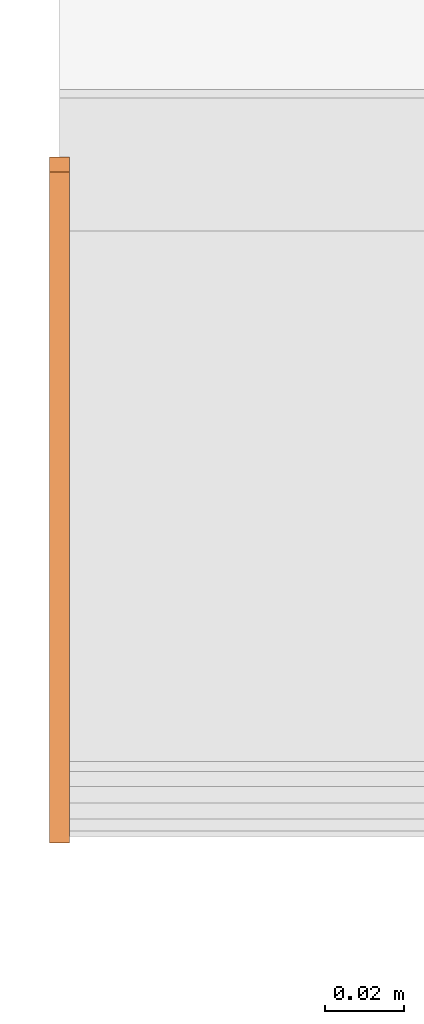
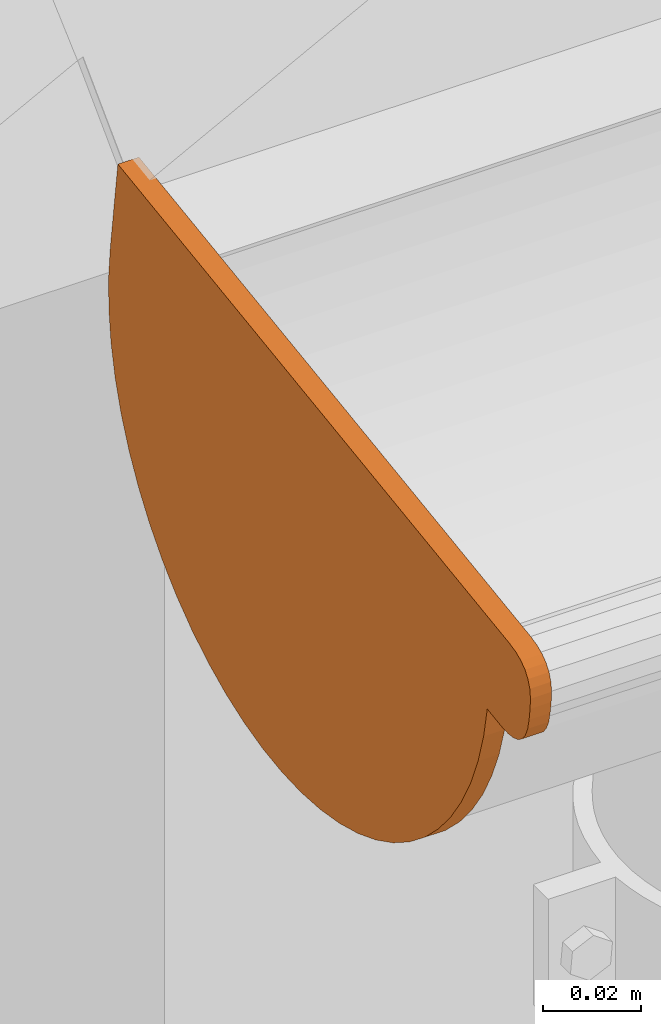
# One storey, part 22 of 43: 1 proxy.
"""IFC2X3 building model written with IfcOpenShell, lengths in millimetres."""

from ifc_helpers import new_model, si_unit, frame, origin_with_axes, place, context, project, spatial, faceted_brep, element, save


model = new_model("IFC2X3")

# Units and contexts
model_context = context("Model", 3, world=origin_with_axes())
ifc_project = project(units=[si_unit("LENGTHUNIT", "METRE", prefix="MILLI")], contexts=[model_context])

# Site, building, storey
site_placement = place(None, origin_with_axes())
site = spatial("IfcSite", under=ifc_project, at=site_placement, Name="Site", CompositionType="ELEMENT")
building_placement = place(site_placement, origin_with_axes())
building = spatial("IfcBuilding", under=site, at=building_placement, Name="?", CompositionType="ELEMENT")
storey_placement = place(building_placement, frame((0.0, 0.0, 5938.0), z_axis=(0.0, 0.0, 1.0), x_axis=(1.0, 0.0, 0.0)))
storey = spatial("IfcBuildingStorey", under=building, at=storey_placement, Name="Dachgeschoß", CompositionType="ELEMENT", Elevation=5938.0)

# Proxy
proxy_placement = place(None, origin_with_axes())
element("IfcBuildingElementProxy", 1, at=proxy_placement, inside=storey, Name="Dach04_RoofGutter#026", ObjectType="gutter", CompositionType="ELEMENT", context=model_context, shape_type="Brep", body=[
    faceted_brep([(-297.5, -7071.2509765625, 6644.939453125), (-302.5, -7071.2509765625, 6644.939453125), (-302.5, -7069.75647654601, 6637.18085322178), (-297.5, -7069.75647654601, 6637.18085322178), (-297.5, -7069.75634765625, 6637.18115234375), (-302.5, -7069.75634765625, 6637.18115234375), (-302.5, -7067.48454766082, 6629.61345255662), (-297.5, -7067.48454766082, 6629.61345255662), (-297.5, -7067.484375, 6629.61328125), (-302.5, -7067.484375, 6629.61328125), (-302.5, -7064.45867502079, 6622.31438108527), (-297.5, -7064.45867502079, 6622.31438108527), (-297.5, -7064.458984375, 6622.314453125), (-302.5, -7064.458984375, 6622.314453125), (-302.5, -7060.71028437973, 6615.3590531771), (-297.5, -7060.71028437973, 6615.3590531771), (-297.5, -7060.7099609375, 6615.35888671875), (-302.5, -7060.7099609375, 6615.35888671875), (-302.5, -7056.27686074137, 6608.8183866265), (-297.5, -7056.27686074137, 6608.8183866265), (-297.5, -7056.27734375, 6608.818359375), (-302.5, -7056.27734375, 6608.818359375), (-302.5, -7051.20534357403, 6602.75985944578), (-297.5, -7051.20534357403, 6602.75985944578), (-297.5, -7051.205078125, 6602.76025390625), (-302.5, -7051.205078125, 6602.76025390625), (-302.5, -7045.54617810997, 6597.24605388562), (-297.5, -7045.54617810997, 6597.24605388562), (-297.5, -7045.54638671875, 6597.24609375), (-302.5, -7045.54638671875, 6597.24609375), (-302.5, -7039.35858673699, 6592.33269353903), (-297.5, -7039.35858673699, 6592.33269353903), (-297.5, -7039.3583984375, 6592.33251953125), (-302.5, -7039.3583984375, 6592.33251953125), (-302.5, -7032.70539846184, 6588.07021961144), (-297.5, -7032.70539846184, 6588.07021961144), (-297.5, -7032.70556640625, 6588.0703125), (-302.5, -7032.70556640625, 6588.0703125), (-302.5, -7025.65536663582, 6584.50311247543), (-297.5, -7025.65536663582, 6584.50311247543), (-297.5, -7025.6552734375, 6584.5029296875), (-302.5, -7025.6552734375, 6584.5029296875), (-302.5, -7018.28037339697, 6581.66722980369), (-297.5, -7018.28037339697, 6581.66722980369), (-297.5, -7018.2802734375, 6581.66748046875), (-302.5, -7018.2802734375, 6581.66748046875), (-302.5, -7010.65637361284, 6579.59238050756), (-297.5, -7010.65637361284, 6579.59238050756), (-297.5, -7010.65625, 6579.59228515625), (-302.5, -7010.65625, 6579.59228515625), (-302.5, -7002.86154998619, 6578.29918514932), (-297.5, -7002.86154998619, 6578.29918514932), (-297.5, -7002.86181640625, 6578.29931640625), (-302.5, -7002.86181640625, 6578.29931640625), (-302.5, -6994.97621626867, 6577.80141638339), (-297.5, -6994.97621626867, 6577.80141638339), (-297.5, -6994.97607421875, 6577.80126953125), (-302.5, -6994.97607421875, 6577.80126953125), (-302.5, -6987.08057429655, 6578.10366952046), (-297.5, -6987.08057429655, 6578.10366952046), (-297.5, -6987.08056640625, 6578.103515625), (-302.5, -6987.08056640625, 6578.103515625), (-302.5, -6979.2561663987, 6579.20321559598), (-297.5, -6979.2561663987, 6579.20321559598), (-297.5, -6979.25634765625, 6579.203125), (-302.5, -6979.25634765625, 6579.203125), (-302.5, -6971.58334766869, 6581.08862497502), (-297.5, -6971.58334766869, 6581.08862497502), (-297.5, -6971.5830078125, 6581.0888671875), (-302.5, -6971.5830078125, 6581.0888671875), (-302.5, -6964.14020801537, 6583.74106715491), (-297.5, -6964.14020801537, 6583.74106715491), (-297.5, -6964.140625, 6583.7412109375), (-302.5, -6964.140625, 6583.7412109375), (-302.5, -6957.00422499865, 6587.13281096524), (-297.5, -6957.00422499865, 6587.13281096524), (-297.5, -6957.00390625, 6587.1328125), (-302.5, -6957.00390625, 6587.1328125), (-302.5, -6950.24730613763, 6591.22891240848), (-297.5, -6950.24730613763, 6591.22891240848), (-297.5, -6950.24755859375, 6591.228515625), (-302.5, -6950.24755859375, 6591.228515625), (-302.5, -6943.94005870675, 6595.98711554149), (-297.5, -6943.94005870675, 6595.98711554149), (-297.5, -6943.93994140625, 6595.9873046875), (-302.5, -6943.93994140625, 6595.9873046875), (-302.5, -6938.14614135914, 6601.35970489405), (-297.5, -6938.14614135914, 6601.35970489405), (-297.5, -6938.14599609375, 6601.35986328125), (-302.5, -6938.14599609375, 6601.35986328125), (-302.5, -6932.92549597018, 6607.29086327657), (-297.5, -6932.92549597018, 6607.29086327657), (-297.5, -6932.92578125, 6607.29052734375), (-302.5, -6932.92578125, 6607.29052734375), (-302.5, -6928.33198134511, 6613.71912746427), (-297.5, -6928.33198134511, 6613.71912746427), (-297.5, -6928.33203125, 6613.71923828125), (-302.5, -6928.33203125, 6613.71923828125), (-302.5, -6924.41233128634, 6620.57973807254), (-297.5, -6924.41233128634, 6620.57973807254), (-297.5, -6924.412109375, 6620.57958984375), (-302.5, -6924.412109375, 6620.57958984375), (-302.5, -6921.20650946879, 6627.80128969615), (-297.5, -6921.20650946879, 6627.80128969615), (-297.5, -6921.20654296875, 6627.80126953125), (-302.5, -6921.20654296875, 6627.80126953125), (-302.5, -6918.74794288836, 6635.31036944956), (-297.5, -6918.74794288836, 6635.31036944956), (-297.5, -6918.748046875, 6635.310546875), (-302.5, -6918.748046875, 6635.310546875), (-302.5, -6917.06184691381, 6643.02974702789), (-297.5, -6917.06184691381, 6643.02974702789), (-297.5, -6917.0615234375, 6643.02978515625), (-302.5, -6917.0615234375, 6643.02978515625), (-302.5, -6916.16482343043, 6650.88008538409), (-297.5, -6916.16482343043, 6650.88008538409), (-297.5, -6916.1650390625, 6650.8798828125), (-302.5, -6916.1650390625, 6650.8798828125), (-302.5, -6916.06723906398, 6658.78048294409), (-297.5, -6916.06723906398, 6658.78048294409), (-297.5, -6916.0673828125, 6658.78076171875), (-302.5, -6916.0673828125, 6658.78076171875), (-302.5, -6916.76928279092, 6666.65086183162), (-297.5, -6916.76928279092, 6666.65086183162), (-297.5, -6916.76904296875, 6666.65087890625), (-302.5, -6916.76904296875, 6666.65087890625), (-302.5, -6994.00994139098, 6655.79527844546), (-297.5, -6994.00994139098, 6655.79527844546), (-297.5, -6994.009765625, 6655.79541015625), (-302.5, -6994.009765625, 6655.79541015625), (-302.5, -7071.25066421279, 6644.93991042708), (-297.5, -7071.25066421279, 6644.93991042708), (-297.5, -6994.009765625, 6655.79541015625), (-297.5, -6917.061465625, 6643.03001015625), (-297.5, -6916.066965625, 6658.78091015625), (-297.5, -6916.768865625, 6666.65101015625), (-297.5, -6916.0673828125, 6658.78076171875), (-297.5, -6917.0618828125, 6643.02986171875), (-297.5, -6916.1651828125, 6650.88016171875), (-297.5, -6917.0615234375, 6643.02978515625), (-297.5, -6928.3316234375, 6613.71928515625), (-297.5, -6921.2063234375, 6627.80148515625), (-297.5, -6918.7477234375, 6635.31058515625), (-297.5, -6921.20654296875, 6627.80126953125), (-297.5, -6928.33184296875, 6613.71906953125), (-297.5, -6924.41214296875, 6620.57956953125), (-297.5, -6994.009765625, 6655.79541015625), (-297.5, -6979.255965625, 6579.20351015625), (-297.5, -6928.331565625, 6613.71951015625), (-297.5, -6917.061465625, 6643.03001015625), (-297.5, -6928.33203125, 6613.71923828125), (-297.5, -6950.24763125, 6591.22863828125), (-297.5, -6938.14633125, 6601.35963828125), (-297.5, -6932.92583125, 6607.29063828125), (-297.5, -6938.14599609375, 6601.35986328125), (-297.5, -6950.24729609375, 6591.22886328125), (-297.5, -6943.93979609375, 6595.98746328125), (-297.5, -6950.24755859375, 6591.228515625), (-297.5, -6979.25635859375, 6579.203115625), (-297.5, -6964.14055859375, 6583.740815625), (-297.5, -6957.00415859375, 6587.132415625), (-297.5, -6964.140625, 6583.7412109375), (-297.5, -6979.256425, 6579.2035109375), (-297.5, -6971.583425, 6581.0890109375), (-297.5, -6928.33203125, 6613.71923828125), (-297.5, -6979.25643125, 6579.20323828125), (-297.5, -6950.24763125, 6591.22863828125), (-297.5, -6979.25634765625, 6579.203125), (-297.5, -7010.65654765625, 6579.592025), (-297.5, -6994.97624765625, 6577.801025), (-297.5, -6987.08074765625, 6578.103425), (-297.5, -6994.97607421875, 6577.80126953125), (-297.5, -7010.65637421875, 6579.59226953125), (-297.5, -7002.86167421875, 6578.29916953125), (-297.5, -7010.65625, 6579.59228515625), (-297.5, -7039.35825, 6592.33258515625), (-297.5, -7025.65505, 6584.50308515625), (-297.5, -7018.28015, 6581.66738515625), (-297.5, -7025.6552734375, 6584.5029296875), (-297.5, -7039.3584734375, 6592.3324296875), (-297.5, -7032.7054734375, 6588.0701296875), (-297.5, -6979.25634765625, 6579.203125), (-297.5, -6994.01014765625, 6655.795025), (-297.5, -7039.35854765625, 6592.332325), (-297.5, -7010.65654765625, 6579.592025), (-297.5, -7039.3583984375, 6592.33251953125), (-297.5, -7060.7101984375, 6615.35911953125), (-297.5, -7051.2050984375, 6602.76011953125), (-297.5, -7045.5461984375, 6597.24591953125), (-297.5, -7051.205078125, 6602.76025390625), (-297.5, -7060.710178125, 6615.35925390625), (-297.5, -7056.277078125, 6608.81875390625), (-297.5, -6994.009765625, 6655.79541015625), (-297.5, -7067.484365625, 6629.61361015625), (-297.5, -7060.709965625, 6615.35931015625), (-297.5, -7039.358165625, 6592.33271015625), (-297.5, -7060.7099609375, 6615.35888671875), (-297.5, -7067.4843609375, 6629.61318671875), (-297.5, -7064.4586609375, 6622.31428671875), (-297.5, -6994.009765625, 6655.79541015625), (-297.5, -7071.250665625, 6644.93991015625), (-297.5, -7069.756165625, 6637.18131015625), (-297.5, -7067.484365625, 6629.61361015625), (-302.5, -7069.75634765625, 6637.18115234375), (-302.5, -7056.27704765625, 6608.81865234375), (-302.5, -7064.45884765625, 6622.31455234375), (-302.5, -7067.48454765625, 6629.61345234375), (-302.5, -7064.458984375, 6622.314453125), (-302.5, -7056.277184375, 6608.818553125), (-302.5, -7060.710284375, 6615.359053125), (-302.5, -7056.27734375, 6608.818359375), (-302.5, -7032.70564375, 6588.069959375), (-302.5, -7045.54644375, 6597.245659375), (-302.5, -7051.20534375, 6602.759859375), (-302.5, -7045.54638671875, 6597.24609375), (-302.5, -7032.70558671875, 6588.07039375), (-302.5, -7039.35858671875, 6592.33269375), (-302.5, -7069.75634765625, 6637.18115234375), (-302.5, -6971.58314765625, 6581.08885234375), (-302.5, -7032.70534765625, 6588.07025234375), (-302.5, -7056.27704765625, 6608.81865234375), (-302.5, -7032.70556640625, 6588.0703125), (-302.5, -7002.86186640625, 6578.2992125), (-302.5, -7018.28046640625, 6581.6674125), (-302.5, -7025.65536640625, 6584.5031125), (-302.5, -7018.2802734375, 6581.66748046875), (-302.5, -7002.8616734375, 6578.29928046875), (-302.5, -7010.6563734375, 6579.59238046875), (-302.5, -7002.86181640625, 6578.29931640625), (-302.5, -6971.58331640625, 6581.08901640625), (-302.5, -6987.08071640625, 6578.10381640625), (-302.5, -6994.97621640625, 6577.80141640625), (-302.5, -6987.08056640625, 6578.103515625), (-302.5, -6971.58316640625, 6581.088715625), (-302.5, -6979.25616640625, 6579.203215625), (-302.5, -7032.70556640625, 6588.0703125), (-302.5, -6971.58336640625, 6581.0889125), (-302.5, -7002.86186640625, 6578.2992125), (-302.5, -6971.5830078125, 6581.0888671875), (-302.5, -6943.9397078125, 6595.9873671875), (-302.5, -6957.0038078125, 6587.1326671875), (-302.5, -6964.1402078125, 6583.7410671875), (-302.5, -6957.00390625, 6587.1328125), (-302.5, -6943.93980625, 6595.9875125), (-302.5, -6950.24730625, 6591.2289125), (-302.5, -6943.93994140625, 6595.9873046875), (-302.5, -6924.41214140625, 6620.5798046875), (-302.5, -6932.92564140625, 6607.2907046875), (-302.5, -6938.14614140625, 6601.3597046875), (-302.5, -6932.92578125, 6607.29052734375), (-302.5, -6924.41228125, 6620.57962734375), (-302.5, -6928.33198125, 6613.71912734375), (-302.5, -6971.5830078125, 6581.0888671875), (-302.5, -7069.7562078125, 6637.1811671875), (-302.5, -6924.4119078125, 6620.5798671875), (-302.5, -6943.9397078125, 6595.9873671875), (-302.5, -6924.412109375, 6620.57958984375), (-302.5, -6916.165009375, 6650.87988984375), (-302.5, -6918.747909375, 6635.31038984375), (-302.5, -6921.206509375, 6627.80128984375), (-302.5, -6918.748046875, 6635.310546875), (-302.5, -6916.165146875, 6650.880046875), (-302.5, -6917.061846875, 6643.029746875), (-302.5, -7069.75634765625, 6637.18115234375), (-302.5, -6916.76904765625, 6666.65085234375), (-302.5, -6916.16494765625, 6650.88015234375), (-302.5, -6924.41204765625, 6620.57985234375), (-302.5, -6916.1650390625, 6650.8798828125), (-302.5, -6916.7691390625, 6666.6505828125), (-302.5, -6916.0672390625, 6658.7804828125), (-302.5, -7069.75634765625, 6637.18115234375), (-302.5, -7071.25084765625, 6644.93975234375), (-302.5, -6994.00994765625, 6655.79525234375), (-302.5, -6916.76904765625, 6666.65085234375), (-302.5, -6916.76904296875, 6666.65087890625), (-297.5, -6916.76904296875, 6666.65087890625), (-297.5, -7077.09054740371, 6644.10797940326), (-302.5, -7077.09054740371, 6644.10797940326), (-302.5, -6919.8671875, 6689.43017578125), (-302.5, -7080.29158760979, 6666.8839762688), (-297.5, -7080.29158760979, 6666.8839762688), (-297.5, -6919.8671875, 6689.43017578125), (-302.5, -6916.76904296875, 6666.65087890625), (-302.5, -6919.86714292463, 6689.43037835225), (-297.5, -6919.86714292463, 6689.43037835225), (-297.5, -6916.76904296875, 6666.65087890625), (-297.5, -6916.76904296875, 6666.65087890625), (-297.5, -7082.05394296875, 6644.23467890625), (-297.5, -7079.74594296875, 6643.94087890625), (-297.5, -7077.09054296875, 6644.10797890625), (-297.5, -6916.76904296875, 6666.65087890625), (-297.5, -7085.62794296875, 6646.20517890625), (-297.5, -7084.01464296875, 6644.98947890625), (-297.5, -7082.05394296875, 6644.23467890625), (-297.5, -6916.76904296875, 6666.65087890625), (-297.5, -7087.81254296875, 6650.01947890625), (-297.5, -7086.89394296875, 6647.88187890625), (-297.5, -7085.62794296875, 6646.20517890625), (-297.5, -6916.76904296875, 6666.65087890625), (-297.5, -7080.29154296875, 6666.88417890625), (-297.5, -7088.38384296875, 6652.61807890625), (-297.5, -7087.81254296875, 6650.01947890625), (-297.5, -7088.3837890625, 6652.6181640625), (-297.5, -7088.6748890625, 6660.5543640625), (-297.5, -7088.9686890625, 6658.2463640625), (-297.5, -7088.8015890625, 6655.5909640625), (-297.5, -7088.3837890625, 6652.6181640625), (-297.5, -7086.7043890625, 6664.1283640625), (-297.5, -7087.9200890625, 6662.5150640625), (-297.5, -7088.6748890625, 6660.5543640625), (-297.5, -7088.3837890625, 6652.6181640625), (-297.5, -7082.8900890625, 6666.3129640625), (-297.5, -7085.0276890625, 6665.3943640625), (-297.5, -7086.7043890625, 6664.1283640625), (-297.5, -7088.3837890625, 6652.6181640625), (-297.5, -7080.2914890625, 6666.8842640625), (-297.5, -7082.8900890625, 6666.3129640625), (-297.5, -6916.76904296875, 6666.65087890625), (-297.5, -6919.86714296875, 6689.43037890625), (-297.5, -7080.29154296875, 6666.88417890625), (-297.5, -7088.3837890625, 6652.6181640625), (-297.5, -7088.80158905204, 6655.59096403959), (-302.5, -7088.80158905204, 6655.59096403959), (-302.5, -7088.3837890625, 6652.6181640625), (-302.5, -7077.0908203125, 6644.10791015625), (-302.5, -7088.8019203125, 6655.59081015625), (-302.5, -6919.8674203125, 6689.43031015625), (-302.5, -6916.7693203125, 6666.65081015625), (-302.5, -6919.8671875, 6689.43017578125), (-302.5, -7085.0277875, 6665.39407578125), (-302.5, -7082.8901875, 6666.31267578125), (-302.5, -7080.2915875, 6666.88397578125), (-302.5, -6919.8671875, 6689.43017578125), (-302.5, -7087.9201875, 6662.51477578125), (-302.5, -7086.7044875, 6664.12807578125), (-302.5, -7085.0277875, 6665.39407578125), (-302.5, -6919.8671875, 6689.43017578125), (-302.5, -7088.9687875, 6658.24607578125), (-302.5, -7088.6749875, 6660.55407578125), (-302.5, -7087.9201875, 6662.51477578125), (-302.5, -6919.8671875, 6689.43017578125), (-302.5, -7088.8016875, 6655.59067578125), (-302.5, -7088.9687875, 6658.24607578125), (-302.5, -7079.74609375, 6643.94091796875), (-302.5, -7082.05409375, 6644.23471796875), (-302.5, -7088.80179375, 6655.59091796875), (-302.5, -7077.09069375, 6644.10801796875), (-302.5, -7084.0146484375, 6644.9892578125), (-302.5, -7085.6279484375, 6646.2049578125), (-302.5, -7088.8016484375, 6655.5906578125), (-302.5, -7082.0539484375, 6644.2344578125), (-302.5, -7086.89404296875, 6647.8818359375), (-302.5, -7087.81264296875, 6650.0194359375), (-302.5, -7088.80174296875, 6655.5908359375), (-302.5, -7085.62804296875, 6646.2051359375), (-302.5, -7088.3837890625, 6652.6181640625), (-302.5, -7088.8015890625, 6655.5909640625), (-302.5, -7087.8124890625, 6650.0195640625), (-297.5, -7079.74609375, 6643.94091796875), (-302.5, -7079.74609375, 6643.94091796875), (-302.5, -7077.09069368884, 6644.10801795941), (-297.5, -7077.09069368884, 6644.10801795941), (-302.5, -7082.89013671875, 6666.31298828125), (-297.5, -7082.89013671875, 6666.31298828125), (-297.5, -7080.291536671, 6666.88428827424), (-302.5, -7080.291536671, 6666.88428827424), (-297.5, -7082.05419921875, 6644.234375), (-302.5, -7082.05419921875, 6644.234375), (-302.5, -7079.74619921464, 6643.94057498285), (-297.5, -7079.74619921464, 6643.94057498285), (-297.5, -7084.0146484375, 6644.9892578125), (-302.5, -7084.0146484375, 6644.9892578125), (-302.5, -7082.05394848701, 6644.23445784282), (-297.5, -7082.05394848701, 6644.23445784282), (-297.5, -7085.6279296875, 6646.205078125), (-302.5, -7085.6279296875, 6646.205078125), (-302.5, -7084.01462973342, 6644.98937815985), (-297.5, -7084.01462973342, 6644.98937815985), (-297.5, -7086.89404296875, 6647.8818359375), (-302.5, -7086.89404296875, 6647.8818359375), (-302.5, -7085.62804300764, 6646.20513594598), (-297.5, -7085.62804300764, 6646.20513594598), (-297.5, -7087.8125, 6650.01953125), (-302.5, -7087.8125, 6650.01953125), (-302.5, -7086.89390000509, 6647.88193130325), (-297.5, -7086.89390000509, 6647.88193130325), (-297.5, -7088.3837890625, 6652.6181640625), (-302.5, -7088.3837890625, 6652.6181640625), (-302.5, -7087.81248906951, 6650.01956401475), (-297.5, -7087.81248906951, 6650.01956401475), (-302.5, -7085.02783203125, 6665.39404296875), (-297.5, -7085.02783203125, 6665.39404296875), (-297.5, -7082.8902320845, 6666.31264296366), (-302.5, -7082.8902320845, 6666.31264296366), (-302.5, -7086.70458984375, 6664.1279296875), (-297.5, -7086.70458984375, 6664.1279296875), (-297.5, -7085.02788985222, 6665.39392964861), (-302.5, -7085.02788985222, 6665.39392964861), (-302.5, -7087.92041015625, 6662.5146484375), (-297.5, -7087.92041015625, 6662.5146484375), (-297.5, -7086.7047101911, 6664.12794839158), (-302.5, -7086.7047101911, 6664.12794839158), (-302.5, -7088.6748046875, 6660.55419921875), (-297.5, -7088.6748046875, 6660.55419921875), (-297.5, -7087.92000471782, 6662.51489916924), (-302.5, -7087.92000471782, 6662.51489916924), (-302.5, -7088.96875, 6658.24609375), (-297.5, -7088.96875, 6658.24609375), (-297.5, -7088.67494998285, 6660.55409375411), (-302.5, -7088.67494998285, 6660.55409375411), (-302.5, -7088.8017578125, 6655.5908203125), (-297.5, -7088.8017578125, 6655.5908203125), (-297.5, -7088.96885780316, 6658.24622037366), (-302.5, -7088.96885780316, 6658.24622037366)], [[[0, 1, 2, 3]], [[4, 5, 6, 7]], [[8, 9, 10, 11]], [[12, 13, 14, 15]], [[16, 17, 18, 19]], [[20, 21, 22, 23]], [[24, 25, 26, 27]], [[28, 29, 30, 31]], [[32, 33, 34, 35]], [[36, 37, 38, 39]], [[40, 41, 42, 43]], [[44, 45, 46, 47]], [[48, 49, 50, 51]], [[52, 53, 54, 55]], [[56, 57, 58, 59]], [[60, 61, 62, 63]], [[64, 65, 66, 67]], [[68, 69, 70, 71]], [[72, 73, 74, 75]], [[76, 77, 78, 79]], [[80, 81, 82, 83]], [[84, 85, 86, 87]], [[88, 89, 90, 91]], [[92, 93, 94, 95]], [[96, 97, 98, 99]], [[100, 101, 102, 103]], [[104, 105, 106, 107]], [[108, 109, 110, 111]], [[112, 113, 114, 115]], [[116, 117, 118, 119]], [[120, 121, 122, 123]], [[124, 125, 126, 127]], [[128, 129, 130, 131]], [[132, 133, 134, 135]], [[136, 137, 138]], [[139, 140, 141, 142]], [[143, 144, 145]], [[146, 147, 148, 149]], [[150, 151, 152, 153]], [[154, 155, 156]], [[157, 158, 159, 160]], [[161, 162, 163]], [[164, 165, 166]], [[167, 168, 169, 170]], [[171, 172, 173]], [[174, 175, 176, 177]], [[178, 179, 180]], [[181, 182, 183, 184]], [[185, 186, 187, 188]], [[189, 190, 191]], [[192, 193, 194, 195]], [[196, 197, 198]], [[199, 200, 201, 202]], [[203, 204, 205, 206]], [[207, 208, 209]], [[210, 211, 212, 213]], [[214, 215, 216]], [[217, 218, 219, 220]], [[221, 222, 223, 224]], [[225, 226, 227]], [[228, 229, 230, 231]], [[232, 233, 234]], [[235, 236, 237]], [[238, 239, 240, 241]], [[242, 243, 244]], [[245, 246, 247, 248]], [[249, 250, 251]], [[252, 253, 254, 255]], [[256, 257, 258, 259]], [[260, 261, 262]], [[263, 264, 265, 266]], [[267, 268, 269]], [[270, 271, 272, 273]], [[274, 275, 276, 277]], [[278, 279, 280, 281]], [[282, 283, 284, 285]], [[286, 287, 288, 289]], [[290, 291, 292, 293]], [[294, 295, 296, 297]], [[298, 299, 300, 301]], [[302, 303, 304, 305]], [[306, 307, 308, 309]], [[310, 311, 312, 313]], [[314, 315, 316]], [[317, 318, 319]], [[320, 321, 322, 323]], [[324, 325, 326, 327]], [[328, 329, 330, 331]], [[332, 333, 334, 335]], [[336, 337, 338, 339]], [[340, 341, 342]], [[343, 344, 345, 346]], [[347, 348, 349, 350]], [[351, 352, 353, 354]], [[355, 356, 357]], [[358, 359, 360, 361]], [[362, 363, 364, 365]], [[366, 367, 368, 369]], [[370, 371, 372, 373]], [[374, 375, 376, 377]], [[378, 379, 380, 381]], [[382, 383, 384, 385]], [[386, 387, 388, 389]], [[390, 391, 392, 393]], [[394, 395, 396, 397]], [[398, 399, 400, 401]], [[402, 403, 404, 405]], [[406, 407, 408, 409]], [[410, 411, 412, 413]]]),
])

save(model, "model.ifc")
